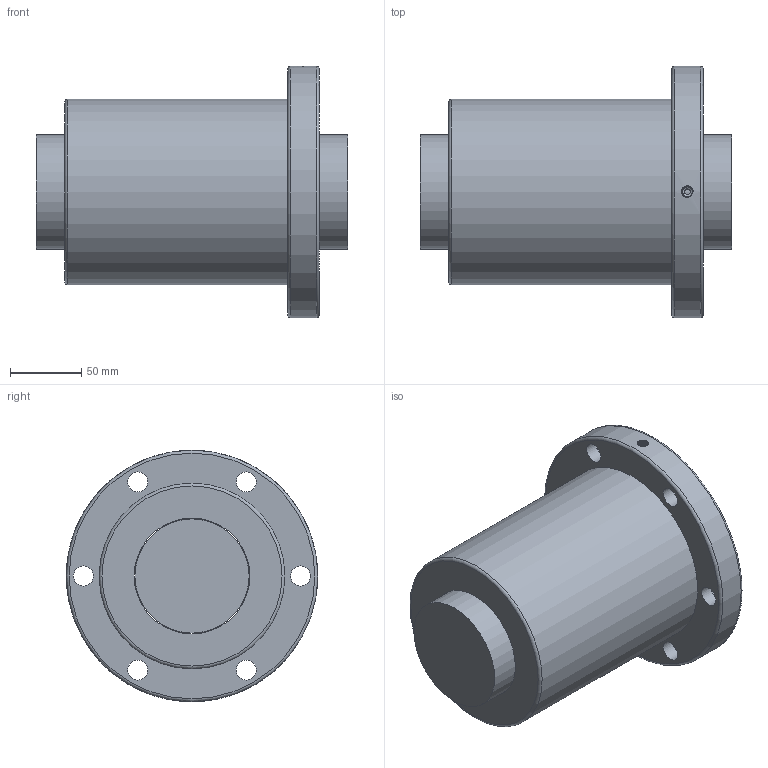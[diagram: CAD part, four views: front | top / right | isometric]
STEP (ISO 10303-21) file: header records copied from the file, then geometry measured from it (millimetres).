
FILE_DESCRIPTION(/* description */ ('Unknown','CAx-IF Rec.Pracs.---Representation and Presentation of Product Manufacturing Information (PMI)---4.0---2014-10-13','CAx-IF Rec.Pracs.---3D Tessellated Geometry---0.4---2014-09-14','2;1'),/* implementation_level */ '2;1');
FILE_NAME(/* name */ 'OFV08010-4.8',/* time_stamp */ '2020-12-08T11:58:11+08:00',/* author */ ('Unknown'),/* organization */ ('Unknown'),/* preprocessor_version */ 'ST-DEVELOPER v16.7',/* originating_system */ 'Solid Edge',/* authorisation */ 'Unknown');
FILE_SCHEMA (('AP242_MANAGED_MODEL_BASED_3D_ENGINEERING_MIM_LF { 1 0 10303 442 1 1 4 }'));
Length unit declared in the file: millimetre
Products named in the file (1): OFV08010-4.8
Bounding box: 218 x 176 x 176 mm (x, y, z)
Volume: 2749429.5 mm3; surface area: 229255 mm2
Topology: 2 solids, 2 shells, 38 faces, 85 edges, 56 vertices
Faces by surface type: cylinder 20, plane 12, torus 3, bspline 2, cone 1
Full cylindrical faces by diameter (mm): 4 x1, 6.917 x1, 14 x6, 20 x6, 80 x1, 81 x1, 130 x1, 176 x1
Entity records: 2800 total; most frequent: CARTESIAN_POINT 1996, DIRECTION 162, ORIENTED_EDGE 104, AXIS2_PLACEMENT_3D 82, EDGE_LOOP 81, FACE_BOUND 81, EDGE_CURVE 52, VERTEX_POINT 45
